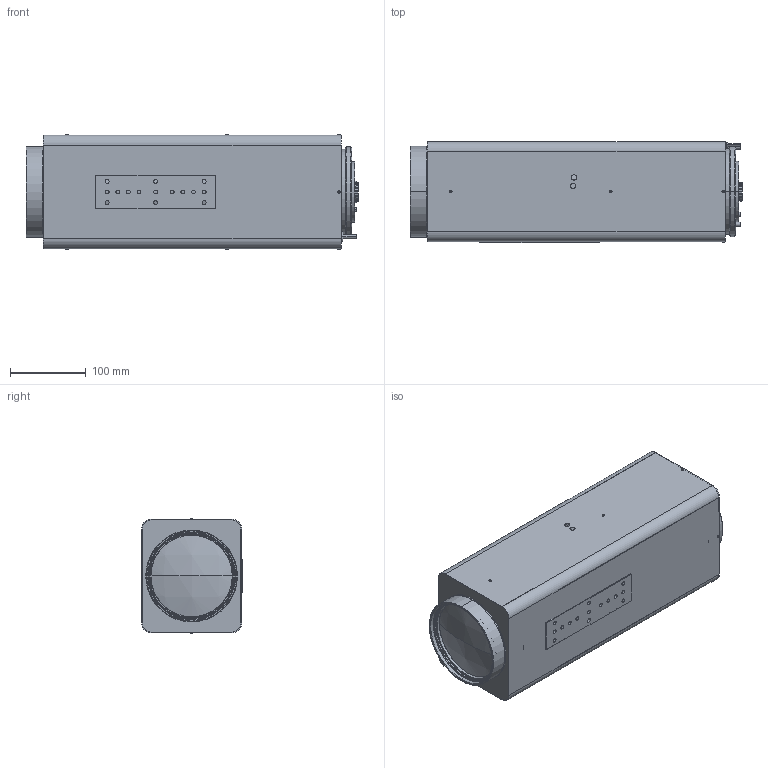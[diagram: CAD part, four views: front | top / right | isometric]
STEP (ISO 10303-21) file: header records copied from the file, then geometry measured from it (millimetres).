
FILE_DESCRIPTION (( 'STEP AP203' ), '1' );
FILE_NAME ('Y66Z15RH.STEP', '2018-05-31T08:40:38', ( '' ), ( '' ), 'SwSTEP 2.0', 'SolidWorks 2018', '' );
FILE_SCHEMA (( 'CONFIG_CONTROL_DESIGN' ));
Length unit declared in the file: millimetre
Products named in the file (1): Y66Z15RH
Bounding box: 438 x 134 x 151 mm (x, y, z)
Volume: 5673149.6 mm3; surface area: 685076.1 mm2
Topology: 18 solids, 18 shells, 392 faces, 835 edges, 523 vertices
Faces by surface type: cylinder 165, plane 121, cone 70, torus 34, sphere 2
Entity records: 10800 total; most frequent: DIRECTION 2095, CARTESIAN_POINT 1751, ORIENTED_EDGE 1670, AXIS2_PLACEMENT_3D 867, EDGE_CURVE 835, VERTEX_POINT 523, EDGE_LOOP 482, CIRCLE 474
